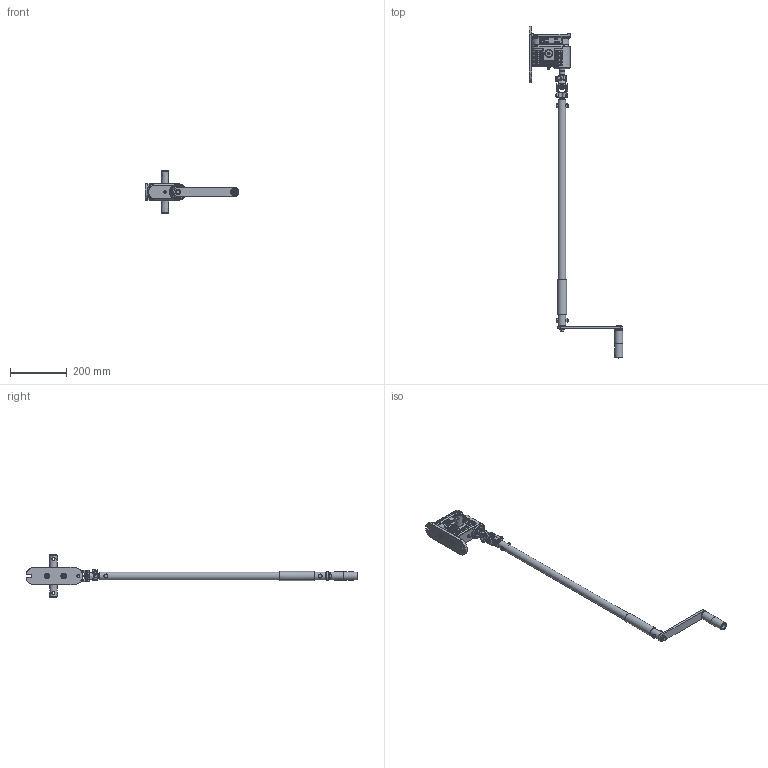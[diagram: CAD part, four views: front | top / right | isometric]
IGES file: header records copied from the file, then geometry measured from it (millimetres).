
Global section: file name: 52110_1601_06; native system: Autodesk Inventor 2022; preprocessor: unknown; author: Nesvadba; date: 20240222.164721; units: millimetre
Bounding box: 331.54 x 1170.99 x 150 mm (x, y, z)
Volume: 844649.9 mm3; surface area: 396378.6 mm2
Topology: 45 solids, 46 shells, 2990 faces, 7945 edges, 5191 vertices
Faces by surface type: bspline 2990
